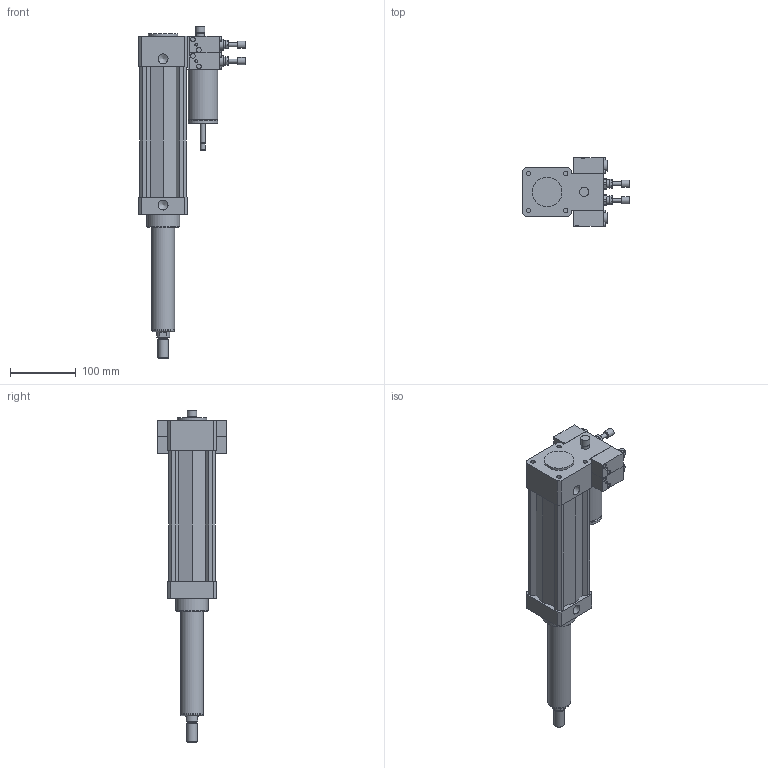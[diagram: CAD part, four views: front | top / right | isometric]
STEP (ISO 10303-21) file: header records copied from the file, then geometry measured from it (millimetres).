
FILE_DESCRIPTION((''),'2;1');
FILE_NAME('I:\Area Tecnica\Disegni\VARIE-3D\Componenti\COP\14##.####.#.#.#\14630150D.C.C.stp','2008-04-23T17:48:17',('airolcr1'),(''),'Autodesk Inventor 2008','Autodesk Inventor 2008','');
FILE_SCHEMA(('AUTOMOTIVE_DESIGN { 1 0 10303 214 1 1 1 1 }'));
Length unit declared in the file: millimetre
Products named in the file (9): 14630150D.C.C; STELO Ø63 C 150; VAL SK NC IN; VAL SK NC OUT; VAL ST NC IN; VAL ST NC OUT; REGOLATORE DR IN; REGOLATORE DR OUT
Assembly tree (8 placements, depth 2):
  14630150D.C.C
    14630150D.C.C
    STELO Ø63 C 150
    VAL SK NC IN
    VAL SK NC OUT
    VAL ST NC IN
    VAL ST NC OUT
    REGOLATORE DR IN
    REGOLATORE DR OUT
Bounding box: 163 x 105.61 x 506 mm (x, y, z)
Volume: 1865774.5 mm3; surface area: 180819.5 mm2
Topology: 8 solids, 8 shells, 308 faces, 646 edges, 417 vertices
Faces by surface type: plane 171, cylinder 91, bspline 34, cone 11, torus 1
Full cylindrical faces by diameter (mm): 2 x2, 4 x16, 6 x2, 7 x16, 8 x2, 11 x2, 12 x2, 13 x1, 14 x1, 14.5 x1, 16 x1, 17 x4, 20 x1, 34.7 x1, 35 x2, 41 x1, 45 x3, 50 x1
Entity records: 8314 total; most frequent: CARTESIAN_POINT 1653, DIRECTION 1362, ORIENTED_EDGE 1084, EDGE_CURVE 542, AXIS2_PLACEMENT_3D 529, EDGE_LOOP 462, VERTEX_POINT 404, FACE_OUTER_BOUND 308
